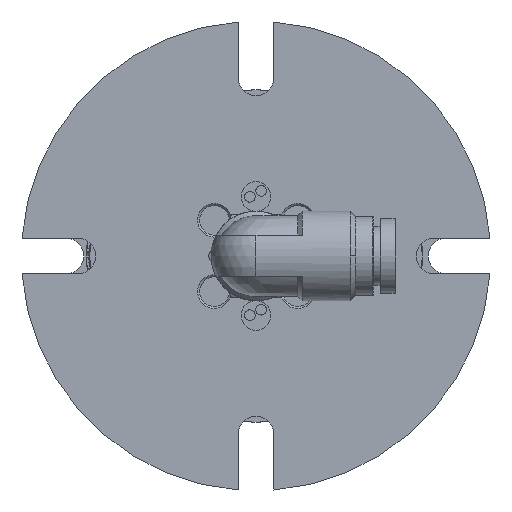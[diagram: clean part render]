
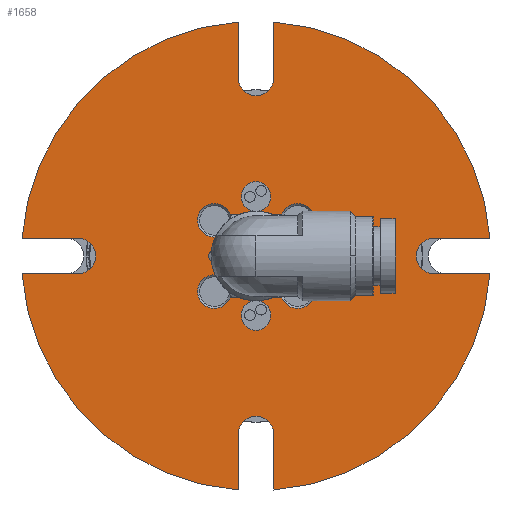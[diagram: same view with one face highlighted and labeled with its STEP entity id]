
A CAD part, left-side view. The second image highlights one B-rep face of the part: STEP entity #1658.
In plain terms, the highlighted planar face has unit normal (-1, 0, 0).
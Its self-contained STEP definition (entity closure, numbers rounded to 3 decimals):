
#251=FACE_BOUND('',#3055,.T.);
#252=FACE_BOUND('',#3056,.T.);
#253=FACE_BOUND('',#3057,.T.);
#254=FACE_BOUND('',#3058,.T.);
#617=LINE('',#23880,#2204);
#618=LINE('',#23885,#2205);
#619=LINE('',#23889,#2206);
#620=LINE('',#23893,#2207);
#621=LINE('',#23897,#2208);
#622=LINE('',#23901,#2209);
#623=LINE('',#23905,#2210);
#624=LINE('',#23909,#2211);
#840=CIRCLE('',#9121,2.5);
#841=CIRCLE('',#9122,2.5);
#842=CIRCLE('',#9123,3.);
#843=CIRCLE('',#9124,39.5);
#844=CIRCLE('',#9125,3.);
#845=CIRCLE('',#9126,39.5);
#846=CIRCLE('',#9127,3.);
#847=CIRCLE('',#9128,39.5);
#848=CIRCLE('',#9129,3.);
#849=CIRCLE('',#9130,39.5);
#850=CIRCLE('',#9131,7.);
#851=CIRCLE('',#9132,2.836);
#852=CIRCLE('',#9133,7.);
#853=CIRCLE('',#9134,7.);
#854=CIRCLE('',#9135,2.836);
#855=CIRCLE('',#9136,7.);
#856=CIRCLE('',#9137,7.);
#857=CIRCLE('',#9138,2.836);
#858=CIRCLE('',#9139,7.);
#859=CIRCLE('',#9140,7.);
#860=CIRCLE('',#9141,2.836);
#1226=PLANE('',#9142);
#1658=ADVANCED_FACE('',(#251,#252,#253,#254),#1226,.F.);
#2204=VECTOR('',#10420,1.);
#2205=VECTOR('',#10423,1.);
#2206=VECTOR('',#10426,1.);
#2207=VECTOR('',#10429,1.);
#2208=VECTOR('',#10432,1.);
#2209=VECTOR('',#10435,1.);
#2210=VECTOR('',#10438,1.);
#2211=VECTOR('',#10441,1.);
#3055=EDGE_LOOP('',(#4480));
#3056=EDGE_LOOP('',(#4481));
#3057=EDGE_LOOP('',(#4482,#4483,#4484,#4485,#4486,#4487,#4488,#4489,#4490,
#4491,#4492,#4493,#4494,#4495,#4496,#4497));
#3058=EDGE_LOOP('',(#4498,#4499,#4500,#4501,#4502,#4503,#4504,#4505,#4506,
#4507,#4508));
#4480=ORIENTED_EDGE('',*,*,#7587,.F.);
#4481=ORIENTED_EDGE('',*,*,#7588,.F.);
#4482=ORIENTED_EDGE('',*,*,#7589,.T.);
#4483=ORIENTED_EDGE('',*,*,#7590,.T.);
#4484=ORIENTED_EDGE('',*,*,#7591,.T.);
#4485=ORIENTED_EDGE('',*,*,#7592,.T.);
#4486=ORIENTED_EDGE('',*,*,#7593,.T.);
#4487=ORIENTED_EDGE('',*,*,#7594,.T.);
#4488=ORIENTED_EDGE('',*,*,#7595,.T.);
#4489=ORIENTED_EDGE('',*,*,#7596,.T.);
#4490=ORIENTED_EDGE('',*,*,#7597,.T.);
#4491=ORIENTED_EDGE('',*,*,#7598,.T.);
#4492=ORIENTED_EDGE('',*,*,#7599,.T.);
#4493=ORIENTED_EDGE('',*,*,#7600,.T.);
#4494=ORIENTED_EDGE('',*,*,#7601,.T.);
#4495=ORIENTED_EDGE('',*,*,#7602,.T.);
#4496=ORIENTED_EDGE('',*,*,#7603,.T.);
#4497=ORIENTED_EDGE('',*,*,#7604,.T.);
#4498=ORIENTED_EDGE('',*,*,#7605,.F.);
#4499=ORIENTED_EDGE('',*,*,#7606,.T.);
#4500=ORIENTED_EDGE('',*,*,#7607,.T.);
#4501=ORIENTED_EDGE('',*,*,#7608,.F.);
#4502=ORIENTED_EDGE('',*,*,#7609,.F.);
#4503=ORIENTED_EDGE('',*,*,#7610,.F.);
#4504=ORIENTED_EDGE('',*,*,#7611,.F.);
#4505=ORIENTED_EDGE('',*,*,#7612,.F.);
#4506=ORIENTED_EDGE('',*,*,#7613,.F.);
#4507=ORIENTED_EDGE('',*,*,#7614,.F.);
#4508=ORIENTED_EDGE('',*,*,#7615,.T.);
#6510=VERTEX_POINT('',#23877);
#6511=VERTEX_POINT('',#23879);
#6512=VERTEX_POINT('',#23881);
#6513=VERTEX_POINT('',#23882);
#6514=VERTEX_POINT('',#23884);
#6515=VERTEX_POINT('',#23886);
#6516=VERTEX_POINT('',#23888);
#6517=VERTEX_POINT('',#23890);
#6518=VERTEX_POINT('',#23892);
#6519=VERTEX_POINT('',#23894);
#6520=VERTEX_POINT('',#23896);
#6521=VERTEX_POINT('',#23898);
#6522=VERTEX_POINT('',#23900);
#6523=VERTEX_POINT('',#23902);
#6524=VERTEX_POINT('',#23904);
#6525=VERTEX_POINT('',#23906);
#6526=VERTEX_POINT('',#23908);
#6527=VERTEX_POINT('',#23910);
#6528=VERTEX_POINT('',#23913);
#6529=VERTEX_POINT('',#23914);
#6530=VERTEX_POINT('',#23916);
#6531=VERTEX_POINT('',#23918);
#6532=VERTEX_POINT('',#23920);
#6533=VERTEX_POINT('',#23922);
#6534=VERTEX_POINT('',#23924);
#6535=VERTEX_POINT('',#23926);
#6536=VERTEX_POINT('',#23928);
#6537=VERTEX_POINT('',#23930);
#6538=VERTEX_POINT('',#23932);
#7587=EDGE_CURVE('',#6510,#6510,#840,.T.);
#7588=EDGE_CURVE('',#6511,#6511,#841,.T.);
#7589=EDGE_CURVE('',#6512,#6513,#617,.T.);
#7590=EDGE_CURVE('',#6513,#6514,#842,.T.);
#7591=EDGE_CURVE('',#6514,#6515,#618,.T.);
#7592=EDGE_CURVE('',#6515,#6516,#843,.T.);
#7593=EDGE_CURVE('',#6516,#6517,#619,.T.);
#7594=EDGE_CURVE('',#6517,#6518,#844,.T.);
#7595=EDGE_CURVE('',#6518,#6519,#620,.T.);
#7596=EDGE_CURVE('',#6519,#6520,#845,.T.);
#7597=EDGE_CURVE('',#6520,#6521,#621,.T.);
#7598=EDGE_CURVE('',#6521,#6522,#846,.T.);
#7599=EDGE_CURVE('',#6522,#6523,#622,.T.);
#7600=EDGE_CURVE('',#6523,#6524,#847,.T.);
#7601=EDGE_CURVE('',#6524,#6525,#623,.T.);
#7602=EDGE_CURVE('',#6525,#6526,#848,.T.);
#7603=EDGE_CURVE('',#6526,#6527,#624,.T.);
#7604=EDGE_CURVE('',#6527,#6512,#849,.T.);
#7605=EDGE_CURVE('',#6528,#6529,#850,.T.);
#7606=EDGE_CURVE('',#6528,#6530,#851,.T.);
#7607=EDGE_CURVE('',#6530,#6531,#852,.T.);
#7608=EDGE_CURVE('',#6532,#6531,#853,.T.);
#7609=EDGE_CURVE('',#6533,#6532,#854,.T.);
#7610=EDGE_CURVE('',#6534,#6533,#855,.T.);
#7611=EDGE_CURVE('',#6535,#6534,#856,.T.);
#7612=EDGE_CURVE('',#6536,#6535,#857,.T.);
#7613=EDGE_CURVE('',#6537,#6536,#858,.T.);
#7614=EDGE_CURVE('',#6538,#6537,#859,.T.);
#7615=EDGE_CURVE('',#6538,#6529,#860,.T.);
#9121=AXIS2_PLACEMENT_3D('',#23876,#10416,#10417);
#9122=AXIS2_PLACEMENT_3D('',#23878,#10418,#10419);
#9123=AXIS2_PLACEMENT_3D('',#23883,#10421,#10422);
#9124=AXIS2_PLACEMENT_3D('',#23887,#10424,#10425);
#9125=AXIS2_PLACEMENT_3D('',#23891,#10427,#10428);
#9126=AXIS2_PLACEMENT_3D('',#23895,#10430,#10431);
#9127=AXIS2_PLACEMENT_3D('',#23899,#10433,#10434);
#9128=AXIS2_PLACEMENT_3D('',#23903,#10436,#10437);
#9129=AXIS2_PLACEMENT_3D('',#23907,#10439,#10440);
#9130=AXIS2_PLACEMENT_3D('',#23911,#10442,#10443);
#9131=AXIS2_PLACEMENT_3D('',#23912,#10444,#10445);
#9132=AXIS2_PLACEMENT_3D('',#23915,#10446,#10447);
#9133=AXIS2_PLACEMENT_3D('',#23917,#10448,#10449);
#9134=AXIS2_PLACEMENT_3D('',#23919,#10450,#10451);
#9135=AXIS2_PLACEMENT_3D('',#23921,#10452,#10453);
#9136=AXIS2_PLACEMENT_3D('',#23923,#10454,#10455);
#9137=AXIS2_PLACEMENT_3D('',#23925,#10456,#10457);
#9138=AXIS2_PLACEMENT_3D('',#23927,#10458,#10459);
#9139=AXIS2_PLACEMENT_3D('',#23929,#10460,#10461);
#9140=AXIS2_PLACEMENT_3D('',#23931,#10462,#10463);
#9141=AXIS2_PLACEMENT_3D('',#23933,#10464,#10465);
#9142=AXIS2_PLACEMENT_3D('',#23934,#10466,#10467);
#10416=DIRECTION('',(-1.,0.,0.));
#10417=DIRECTION('',(0.,0.,1.));
#10418=DIRECTION('',(-1.,0.,0.));
#10419=DIRECTION('',(0.,0.,1.));
#10420=DIRECTION('',(0.,1.,0.));
#10421=DIRECTION('',(1.,0.,0.));
#10422=DIRECTION('',(0.,0.,1.));
#10423=DIRECTION('',(0.,-1.,0.));
#10424=DIRECTION('',(-1.,0.,0.));
#10425=DIRECTION('',(0.,0.,1.));
#10426=DIRECTION('',(0.,0.,-1.));
#10427=DIRECTION('',(1.,0.,0.));
#10428=DIRECTION('',(0.,0.,1.));
#10429=DIRECTION('',(0.,0.,1.));
#10430=DIRECTION('',(-1.,0.,0.));
#10431=DIRECTION('',(0.,0.,1.));
#10432=DIRECTION('',(0.,-1.,0.));
#10433=DIRECTION('',(1.,0.,0.));
#10434=DIRECTION('',(0.,0.,1.));
#10435=DIRECTION('',(0.,1.,0.));
#10436=DIRECTION('',(-1.,0.,0.));
#10437=DIRECTION('',(0.,0.,1.));
#10438=DIRECTION('',(0.,0.,1.));
#10439=DIRECTION('',(1.,0.,0.));
#10440=DIRECTION('',(0.,0.,1.));
#10441=DIRECTION('',(0.,0.,-1.));
#10442=DIRECTION('',(-1.,0.,0.));
#10443=DIRECTION('',(0.,0.,1.));
#10444=DIRECTION('',(-1.,0.,0.));
#10445=DIRECTION('',(0.,1.,0.));
#10446=DIRECTION('',(1.,0.,0.));
#10447=DIRECTION('',(0.,0.,-1.));
#10448=DIRECTION('',(1.,0.,0.));
#10449=DIRECTION('',(0.,-1.,0.));
#10450=DIRECTION('',(-1.,0.,0.));
#10451=DIRECTION('',(0.,1.,0.));
#10452=DIRECTION('',(-1.,0.,0.));
#10453=DIRECTION('',(0.,0.,-1.));
#10454=DIRECTION('',(-1.,0.,0.));
#10455=DIRECTION('',(0.,1.,0.));
#10456=DIRECTION('',(-1.,0.,0.));
#10457=DIRECTION('',(0.,1.,0.));
#10458=DIRECTION('',(-1.,0.,0.));
#10459=DIRECTION('',(0.,0.,-1.));
#10460=DIRECTION('',(-1.,0.,0.));
#10461=DIRECTION('',(0.,1.,0.));
#10462=DIRECTION('',(-1.,0.,0.));
#10463=DIRECTION('',(0.,1.,0.));
#10464=DIRECTION('',(1.,0.,0.));
#10465=DIRECTION('',(0.,0.,-1.));
#10466=DIRECTION('',(1.,0.,0.));
#10467=DIRECTION('',(0.,0.,1.));
#23876=CARTESIAN_POINT('',(0.,0.,-10.));
#23877=CARTESIAN_POINT('',(0.,0.,-7.5));
#23878=CARTESIAN_POINT('',(0.,0.,10.));
#23879=CARTESIAN_POINT('',(0.,0.,12.5));
#23880=CARTESIAN_POINT('',(0.,-39.386,-3.));
#23881=CARTESIAN_POINT('',(0.,-39.386,-3.));
#23882=CARTESIAN_POINT('',(0.,-30.,-3.));
#23883=CARTESIAN_POINT('',(0.,-30.,0.));
#23884=CARTESIAN_POINT('',(0.,-30.,3.));
#23885=CARTESIAN_POINT('',(0.,-30.,3.));
#23886=CARTESIAN_POINT('',(0.,-39.386,3.));
#23887=CARTESIAN_POINT('',(0.,0.,0.));
#23888=CARTESIAN_POINT('',(0.,-3.,39.386));
#23889=CARTESIAN_POINT('',(0.,-3.,39.386));
#23890=CARTESIAN_POINT('',(0.,-3.,30.));
#23891=CARTESIAN_POINT('',(0.,0.,30.));
#23892=CARTESIAN_POINT('',(0.,3.,30.));
#23893=CARTESIAN_POINT('',(0.,3.,30.));
#23894=CARTESIAN_POINT('',(0.,3.,39.386));
#23895=CARTESIAN_POINT('',(0.,0.,0.));
#23896=CARTESIAN_POINT('',(0.,39.386,3.));
#23897=CARTESIAN_POINT('',(0.,39.386,3.));
#23898=CARTESIAN_POINT('',(0.,30.,3.));
#23899=CARTESIAN_POINT('',(0.,30.,0.));
#23900=CARTESIAN_POINT('',(0.,30.,-3.));
#23901=CARTESIAN_POINT('',(0.,30.,-3.));
#23902=CARTESIAN_POINT('',(0.,39.386,-3.));
#23903=CARTESIAN_POINT('',(0.,0.,0.));
#23904=CARTESIAN_POINT('',(0.,3.,-39.386));
#23905=CARTESIAN_POINT('',(0.,3.,-39.386));
#23906=CARTESIAN_POINT('',(0.,3.,-30.));
#23907=CARTESIAN_POINT('',(0.,0.,-30.));
#23908=CARTESIAN_POINT('',(0.,-3.,-30.));
#23909=CARTESIAN_POINT('',(0.,-3.,-30.));
#23910=CARTESIAN_POINT('',(0.,-3.,-39.386));
#23911=CARTESIAN_POINT('',(0.,0.,0.));
#23912=CARTESIAN_POINT('',(0.,0.,0.));
#23913=CARTESIAN_POINT('',(0.,-6.181,-3.285));
#23914=CARTESIAN_POINT('',(0.,-6.181,3.285));
#23915=CARTESIAN_POINT('',(0.,-7.,-6.));
#23916=CARTESIAN_POINT('',(0.,-4.191,-5.606));
#23917=CARTESIAN_POINT('',(0.,0.,0.));
#23918=CARTESIAN_POINT('',(0.,0.,-7.));
#23919=CARTESIAN_POINT('',(0.,0.,0.));
#23920=CARTESIAN_POINT('',(0.,4.191,-5.606));
#23921=CARTESIAN_POINT('',(0.,7.,-6.));
#23922=CARTESIAN_POINT('',(0.,6.181,-3.285));
#23923=CARTESIAN_POINT('',(0.,0.,0.));
#23924=CARTESIAN_POINT('',(0.,7.,0.));
#23925=CARTESIAN_POINT('',(0.,0.,0.));
#23926=CARTESIAN_POINT('',(0.,6.181,3.285));
#23927=CARTESIAN_POINT('',(0.,7.,6.));
#23928=CARTESIAN_POINT('',(0.,4.191,5.606));
#23929=CARTESIAN_POINT('',(0.,0.,0.));
#23930=CARTESIAN_POINT('',(0.,0.,7.));
#23931=CARTESIAN_POINT('',(0.,0.,0.));
#23932=CARTESIAN_POINT('',(0.,-4.191,5.606));
#23933=CARTESIAN_POINT('',(0.,-7.,6.));
#23934=CARTESIAN_POINT('',(0.,-30.,0.));
